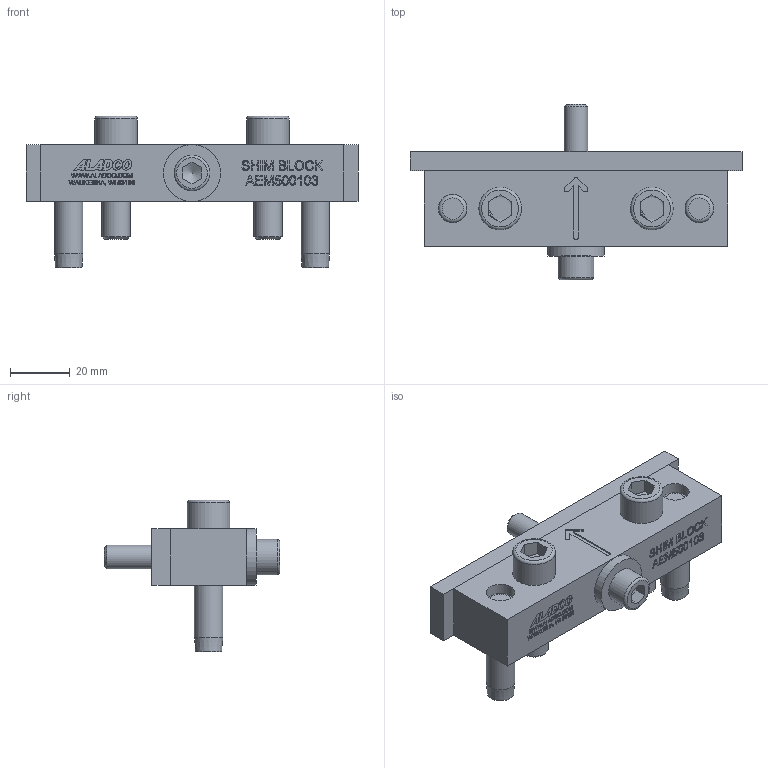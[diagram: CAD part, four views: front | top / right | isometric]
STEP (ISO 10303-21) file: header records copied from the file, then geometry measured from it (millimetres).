
FILE_DESCRIPTION(/* description */ (''),/* implementation_level */ '2;1');
FILE_NAME(/* name */ 'AEM500103.stp',/* time_stamp */ '2025-05-05T13:28:43-05:00',/* author */ ('adellomodarme'),/* organization */ (''),/* preprocessor_version */ 'ST-DEVELOPER v20',/* originating_system */ 'Autodesk Inventor 2025',/* authorisation */ '0 in^3');
FILE_SCHEMA (('AUTOMOTIVE_DESIGN { 1 0 10303 214 3 1 1 }'));
Length unit declared in the file: inch
Products named in the file (10): AEM500103; AEM500107; AEM500102; AEM500108; ANSI B18.8.2 - 3/8 x 1 1/2, PHGMD; AEM500109; ANSI B18.3 - 3/8 - 16 UNC - 1 1/4 HS HCS; AEM500110; ANSI B18.3 - 5/16 - 18 UNC - 2 HS HCS; AEM500111
Assembly tree (11 placements, depth 3):
  AEM500103
    AEM500107
    AEM500102
    AEM500108  x2
      ANSI B18.8.2 - 3/8 x 1 1/2, PHGMD
    AEM500109  x2
      ANSI B18.3 - 3/8 - 16 UNC - 1 1/4 HS HCS
    AEM500110
      ANSI B18.3 - 5/16 - 18 UNC - 2 HS HCS
    AEM500111
Bounding box: 111.12 x 58.72 x 50.8 mm (x, y, z)
Volume: 67514.9 mm3; surface area: 27124.4 mm2
Topology: 8 solids, 8 shells, 981 faces, 2659 edges, 1772 vertices
Faces by surface type: plane 688, bspline 257, cylinder 20, torus 8, cone 8
Full cylindrical faces by diameter (mm): 7.925 x1, 8.731 x1, 9.525 x4, 9.53 x2, 11.112 x2, 11.913 x1, 14.275 x2, 14.287 x1, 19.05 x1
Entity records: 32416 total; most frequent: CARTESIAN_POINT 9417, ORIENTED_EDGE 5226, DIRECTION 3589, EDGE_CURVE 2613, LINE 2031, VECTOR 2031, VERTEX_POINT 1743, EDGE_LOOP 1052
